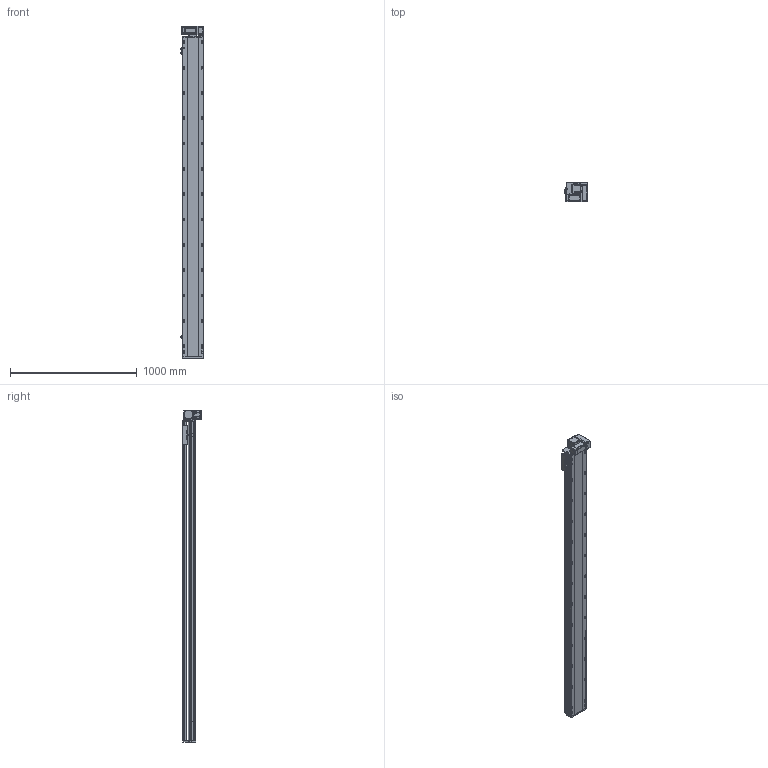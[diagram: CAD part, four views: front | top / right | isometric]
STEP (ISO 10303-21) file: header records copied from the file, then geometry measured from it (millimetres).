
FILE_DESCRIPTION (( 'STEP AP214' ), '1' );
FILE_NAME ('RTB17S-XX-2250-RM-M40-C4.STEP', '2025-12-11T08:28:06', ( '' ), ( '' ), 'SwSTEP 2.0', 'SolidWorks 2018', '' );
FILE_SCHEMA (( 'AUTOMOTIVE_DESIGN' ));
Length unit declared in the file: millimetre
Products named in the file (14): RTB17S-L-001耜醱啣^RTB17S-XX-XX-RM-M40-C4; RTB17S-L-014-T20--々湍釱^RTB17S-RM-々湍釱蚾饜-400W_RTB17S-XX-XX-RM-M40-C4; RTH13-BL-012覜茼え俋离^RTB17S-XX-XX-RM-M40-C4; OMRON EE-SX672 传感器^RTB17S-XX-XX-RM-M40-C4; RTB17-R-011菁釱^RTB17S-XX-XX-RM-M40-C4; 400W侜督萇儂^RTB17S-XX-XX-RM-M40-C4; RTB14-L-005P--轴承塑胶压盖^RTB17S-RM-皮带座装配-400W_RTB17S-XX-XX-RM-M40-C4; RTB14-L-017P^RTB17S-RM-々湍釱蚾饜-400W_RTB17S-XX-XX-RM-M40-C4; RTB14-L-018P^RTB17S-RM-々湍釱蚾饜-400W_RTB17S-XX-XX-RM-M40-C4; RTB17S-RM-々湍釱蚾饜-400W^RTB17S-XX-XX-RM-M40-C4; RTB14-L-008-M20--萇儂啣^RTB17S-RM-々湍釱蚾饜-400W_RTB17S-XX-XX-RM-M40-C4; RTB17S-L-004佪裝蹟譫蟀諉釱^RTB17S-XX-XX-RM-M40-C4; RTB17S-L-007奻裔^RTB17S-XX-XX-RM-M40-C4; RTB17S-XX-2250-RM-M40-C4
Assembly tree (16 placements, depth 3):
  RTB17S-XX-2250-RM-M40-C4
    RTB17-R-011菁釱^RTB17S-XX-XX-RM-M40-C4
    RTB17S-L-007奻裔^RTB17S-XX-XX-RM-M40-C4
    OMRON EE-SX672 传感器^RTB17S-XX-XX-RM-M40-C4  x3
    RTB17S-L-001耜醱啣^RTB17S-XX-XX-RM-M40-C4
    400W侜督萇儂^RTB17S-XX-XX-RM-M40-C4
    RTB17S-L-004佪裝蹟譫蟀諉釱^RTB17S-XX-XX-RM-M40-C4
    RTH13-BL-012覜茼え俋离^RTB17S-XX-XX-RM-M40-C4
    RTB17S-RM-々湍釱蚾饜-400W^RTB17S-XX-XX-RM-M40-C4
      RTB17S-L-014-T20--々湍釱^RTB17S-RM-々湍釱蚾饜-400W_RTB17S-XX-XX-RM-M40-C4
      RTB14-L-005P--轴承塑胶压盖^RTB17S-RM-皮带座装配-400W_RTB17S-XX-XX-RM-M40-C4
      RTB14-L-008-M20--萇儂啣^RTB17S-RM-々湍釱蚾饜-400W_RTB17S-XX-XX-RM-M40-C4
      RTB14-L-017P^RTB17S-RM-々湍釱蚾饜-400W_RTB17S-XX-XX-RM-M40-C4  x2
      RTB14-L-018P^RTB17S-RM-々湍釱蚾饜-400W_RTB17S-XX-XX-RM-M40-C4
Bounding box: 183.5 x 156.5 x 2622.5 mm (x, y, z)
Volume: 22562754.5 mm3; surface area: 2611477.7 mm2
Topology: 15 solids, 15 shells, 2317 faces, 6465 edges, 4221 vertices
Faces by surface type: plane 1082, cylinder 787, bspline 301, cone 139, torus 8
Entity records: 68009 total; most frequent: CARTESIAN_POINT 19270, ORIENTED_EDGE 9774, DIRECTION 9026, EDGE_CURVE 4887, VERTEX_POINT 3209, AXIS2_PLACEMENT_3D 3139, LINE 2748, VECTOR 2748
